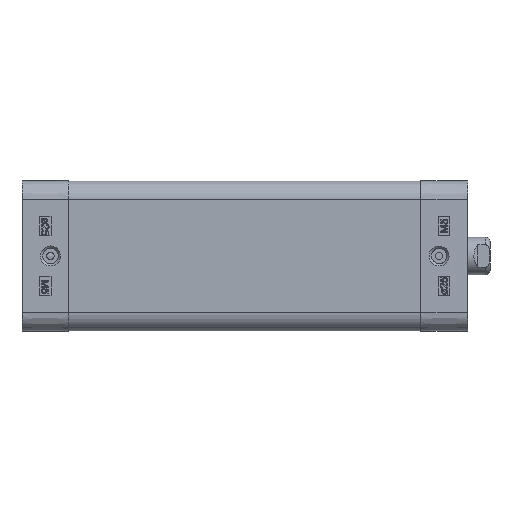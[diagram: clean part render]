
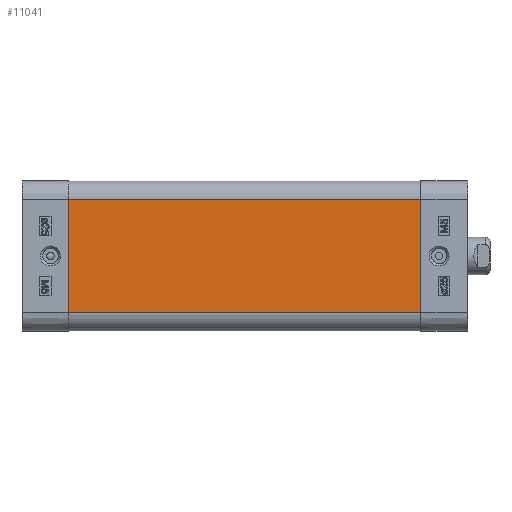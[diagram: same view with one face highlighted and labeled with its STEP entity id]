
A CAD part, left-side view. The second image highlights one B-rep face of the part: STEP entity #11041.
In plain terms, the highlighted planar face has unit normal (-1, 0, 0).
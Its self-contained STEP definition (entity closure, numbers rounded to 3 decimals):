
#8820=CARTESIAN_POINT('',(-20.,-94.0,15.0));
#8821=VERTEX_POINT('',#8820);
#8829=CARTESIAN_POINT('',(-20.,-94.0,-15.));
#8830=VERTEX_POINT('',#8829);
#8831=CARTESIAN_POINT('',(-20.,-94.0,-15.));
#8832=DIRECTION('',(0.0,0.0,1.0));
#8833=VECTOR('',#8832,30.);
#8834=LINE('',#8831,#8833);
#8835=EDGE_CURVE('',#8830,#8821,#8834,.T.);
#9969=CARTESIAN_POINT('',(-20.,0.0,15.0));
#9970=VERTEX_POINT('',#9969);
#9978=CARTESIAN_POINT('',(-20.,0.0,15.0));
#9979=DIRECTION('',(0.0,-1.0,0.0));
#9980=VECTOR('',#9979,94.0);
#9981=LINE('',#9978,#9980);
#9982=EDGE_CURVE('',#9970,#8821,#9981,.T.);
#11006=CARTESIAN_POINT('',(-20.,0.0,-15.));
#11007=VERTEX_POINT('',#11006);
#11008=CARTESIAN_POINT('',(-20.,0.0,-15.));
#11009=DIRECTION('',(0.0,-1.0,0.0));
#11010=VECTOR('',#11009,94.0);
#11011=LINE('',#11008,#11010);
#11012=EDGE_CURVE('',#11007,#8830,#11011,.T.);
#11025=CARTESIAN_POINT('',(-20.,0.0,-15.));
#11026=DIRECTION('',(-1.0,0.0,0.0));
#11027=DIRECTION('',(0.0,0.0,1.0));
#11028=AXIS2_PLACEMENT_3D('',#11025,#11026,#11027);
#11029=PLANE('',#11028);
#11030=ORIENTED_EDGE('',*,*,#8835,.T.);
#11031=ORIENTED_EDGE('',*,*,#9982,.F.);
#11032=CARTESIAN_POINT('',(-20.,0.0,-15.));
#11033=DIRECTION('',(0.0,0.0,1.0));
#11034=VECTOR('',#11033,30.);
#11035=LINE('',#11032,#11034);
#11036=EDGE_CURVE('',#11007,#9970,#11035,.T.);
#11037=ORIENTED_EDGE('',*,*,#11036,.F.);
#11038=ORIENTED_EDGE('',*,*,#11012,.T.);
#11039=EDGE_LOOP('',(#11030,#11031,#11037,#11038));
#11040=FACE_OUTER_BOUND('',#11039,.T.);
#11041=ADVANCED_FACE('',(#11040),#11029,.T.);
